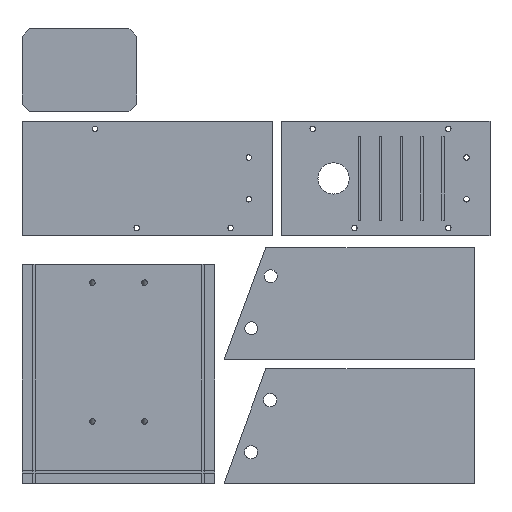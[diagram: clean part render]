
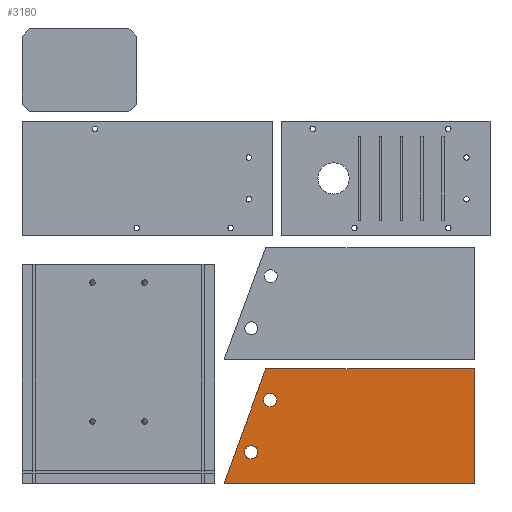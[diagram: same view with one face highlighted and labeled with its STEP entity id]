
A CAD part, top view. The second image highlights one B-rep face of the part: STEP entity #3180.
In plain terms, the highlighted planar face has unit normal (0, 0, 1).
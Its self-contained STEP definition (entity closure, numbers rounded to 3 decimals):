
#2707 = VERTEX_POINT('',#2708);
#2708 = CARTESIAN_POINT('',(198.31,0.,6.858));
#2715 = PLANE('',#2716);
#2716 = AXIS2_PLACEMENT_3D('',#2717,#2718,#2719);
#2717 = CARTESIAN_POINT('',(198.31,0.,0.));
#2718 = DIRECTION('',(-1.,0.,0.));
#2719 = DIRECTION('',(0.,1.,0.));
#2727 = PLANE('',#2728);
#2728 = AXIS2_PLACEMENT_3D('',#2729,#2730,#2731);
#2729 = CARTESIAN_POINT('',(88.582,0.,0.));
#2730 = DIRECTION('',(0.,1.,0.));
#2731 = DIRECTION('',(1.,0.,0.));
#2739 = EDGE_CURVE('',#2707,#2740,#2742,.T.);
#2740 = VERTEX_POINT('',#2741);
#2741 = CARTESIAN_POINT('',(198.31,50.292,6.858));
#2742 = SURFACE_CURVE('',#2743,(#2747,#2754),.PCURVE_S1.);
#2743 = LINE('',#2744,#2745);
#2744 = CARTESIAN_POINT('',(198.31,0.,6.858));
#2745 = VECTOR('',#2746,1.);
#2746 = DIRECTION('',(0.,1.,0.));
#2747 = PCURVE('',#2715,#2748);
#2748 = DEFINITIONAL_REPRESENTATION('',(#2749),#2753);
#2749 = LINE('',#2750,#2751);
#2750 = CARTESIAN_POINT('',(0.,-6.858));
#2751 = VECTOR('',#2752,1.);
#2752 = DIRECTION('',(1.,0.));
#2753 = ( GEOMETRIC_REPRESENTATION_CONTEXT(2) 
PARAMETRIC_REPRESENTATION_CONTEXT() REPRESENTATION_CONTEXT('2D SPACE',''
  ) );
#2754 = PCURVE('',#2755,#2760);
#2755 = PLANE('',#2756);
#2756 = AXIS2_PLACEMENT_3D('',#2757,#2758,#2759);
#2757 = CARTESIAN_POINT('',(147.213,23.638,6.858));
#2758 = DIRECTION('',(0.,0.,1.));
#2759 = DIRECTION('',(0.,1.,0.));
#2760 = DEFINITIONAL_REPRESENTATION('',(#2761),#2765);
#2761 = LINE('',#2762,#2763);
#2762 = CARTESIAN_POINT('',(-23.638,-51.097));
#2763 = VECTOR('',#2764,1.);
#2764 = DIRECTION('',(1.,0.));
#2765 = ( GEOMETRIC_REPRESENTATION_CONTEXT(2) 
PARAMETRIC_REPRESENTATION_CONTEXT() REPRESENTATION_CONTEXT('2D SPACE',''
  ) );
#2783 = PLANE('',#2784);
#2784 = AXIS2_PLACEMENT_3D('',#2785,#2786,#2787);
#2785 = CARTESIAN_POINT('',(198.31,50.292,0.));
#2786 = DIRECTION('',(0.,-1.,0.));
#2787 = DIRECTION('',(-1.,0.,0.));
#2827 = VERTEX_POINT('',#2828);
#2828 = CARTESIAN_POINT('',(88.582,0.,6.858));
#2842 = PLANE('',#2843);
#2843 = AXIS2_PLACEMENT_3D('',#2844,#2845,#2846);
#2844 = CARTESIAN_POINT('',(106.87,50.292,0.));
#2845 = DIRECTION('',(0.94,-0.342,0.));
#2846 = DIRECTION('',(-0.342,-0.94,0.));
#2854 = EDGE_CURVE('',#2827,#2707,#2855,.T.);
#2855 = SURFACE_CURVE('',#2856,(#2860,#2867),.PCURVE_S1.);
#2856 = LINE('',#2857,#2858);
#2857 = CARTESIAN_POINT('',(88.582,0.,6.858));
#2858 = VECTOR('',#2859,1.);
#2859 = DIRECTION('',(1.,0.,0.));
#2860 = PCURVE('',#2727,#2861);
#2861 = DEFINITIONAL_REPRESENTATION('',(#2862),#2866);
#2862 = LINE('',#2863,#2864);
#2863 = CARTESIAN_POINT('',(0.,-6.858));
#2864 = VECTOR('',#2865,1.);
#2865 = DIRECTION('',(1.,0.));
#2866 = ( GEOMETRIC_REPRESENTATION_CONTEXT(2) 
PARAMETRIC_REPRESENTATION_CONTEXT() REPRESENTATION_CONTEXT('2D SPACE',''
  ) );
#2867 = PCURVE('',#2755,#2868);
#2868 = DEFINITIONAL_REPRESENTATION('',(#2869),#2873);
#2869 = LINE('',#2870,#2871);
#2870 = CARTESIAN_POINT('',(-23.638,58.631));
#2871 = VECTOR('',#2872,1.);
#2872 = DIRECTION('',(0.,-1.));
#2873 = ( GEOMETRIC_REPRESENTATION_CONTEXT(2) 
PARAMETRIC_REPRESENTATION_CONTEXT() REPRESENTATION_CONTEXT('2D SPACE',''
  ) );
#2963 = EDGE_CURVE('',#2740,#2964,#2966,.T.);
#2964 = VERTEX_POINT('',#2965);
#2965 = CARTESIAN_POINT('',(106.87,50.292,6.858));
#2966 = SURFACE_CURVE('',#2967,(#2971,#2978),.PCURVE_S1.);
#2967 = LINE('',#2968,#2969);
#2968 = CARTESIAN_POINT('',(198.31,50.292,6.858));
#2969 = VECTOR('',#2970,1.);
#2970 = DIRECTION('',(-1.,0.,0.));
#2971 = PCURVE('',#2783,#2972);
#2972 = DEFINITIONAL_REPRESENTATION('',(#2973),#2977);
#2973 = LINE('',#2974,#2975);
#2974 = CARTESIAN_POINT('',(0.,-6.858));
#2975 = VECTOR('',#2976,1.);
#2976 = DIRECTION('',(1.,0.));
#2977 = ( GEOMETRIC_REPRESENTATION_CONTEXT(2) 
PARAMETRIC_REPRESENTATION_CONTEXT() REPRESENTATION_CONTEXT('2D SPACE',''
  ) );
#2978 = PCURVE('',#2755,#2979);
#2979 = DEFINITIONAL_REPRESENTATION('',(#2980),#2984);
#2980 = LINE('',#2981,#2982);
#2981 = CARTESIAN_POINT('',(26.654,-51.097));
#2982 = VECTOR('',#2983,1.);
#2983 = DIRECTION('',(0.,1.));
#2984 = ( GEOMETRIC_REPRESENTATION_CONTEXT(2) 
PARAMETRIC_REPRESENTATION_CONTEXT() REPRESENTATION_CONTEXT('2D SPACE',''
  ) );
#3138 = CYLINDRICAL_SURFACE('',#3139,2.858);
#3139 = AXIS2_PLACEMENT_3D('',#3140,#3141,#3142);
#3140 = CARTESIAN_POINT('',(108.74,36.576,-1.));
#3141 = DIRECTION('',(0.,0.,1.));
#3142 = DIRECTION('',(0.,1.,0.));
#3169 = CYLINDRICAL_SURFACE('',#3170,2.858);
#3170 = AXIS2_PLACEMENT_3D('',#3171,#3172,#3173);
#3171 = CARTESIAN_POINT('',(100.428,13.716,-1.));
#3172 = DIRECTION('',(0.,0.,1.));
#3173 = DIRECTION('',(0.,1.,0.));
#3180 = ADVANCED_FACE('',(#3181,#3207,#3233),#2755,.T.);
#3181 = FACE_BOUND('',#3182,.T.);
#3182 = EDGE_LOOP('',(#3183,#3184,#3185,#3206));
#3183 = ORIENTED_EDGE('',*,*,#2739,.T.);
#3184 = ORIENTED_EDGE('',*,*,#2963,.T.);
#3185 = ORIENTED_EDGE('',*,*,#3186,.T.);
#3186 = EDGE_CURVE('',#2964,#2827,#3187,.T.);
#3187 = SURFACE_CURVE('',#3188,(#3192,#3199),.PCURVE_S1.);
#3188 = LINE('',#3189,#3190);
#3189 = CARTESIAN_POINT('',(106.87,50.292,6.858));
#3190 = VECTOR('',#3191,1.);
#3191 = DIRECTION('',(-0.342,-0.94,0.));
#3192 = PCURVE('',#2755,#3193);
#3193 = DEFINITIONAL_REPRESENTATION('',(#3194),#3198);
#3194 = LINE('',#3195,#3196);
#3195 = CARTESIAN_POINT('',(26.654,40.343));
#3196 = VECTOR('',#3197,1.);
#3197 = DIRECTION('',(-0.94,0.342));
#3198 = ( GEOMETRIC_REPRESENTATION_CONTEXT(2) 
PARAMETRIC_REPRESENTATION_CONTEXT() REPRESENTATION_CONTEXT('2D SPACE',''
  ) );
#3199 = PCURVE('',#2842,#3200);
#3200 = DEFINITIONAL_REPRESENTATION('',(#3201),#3205);
#3201 = LINE('',#3202,#3203);
#3202 = CARTESIAN_POINT('',(0.,-6.858));
#3203 = VECTOR('',#3204,1.);
#3204 = DIRECTION('',(1.,0.));
#3205 = ( GEOMETRIC_REPRESENTATION_CONTEXT(2) 
PARAMETRIC_REPRESENTATION_CONTEXT() REPRESENTATION_CONTEXT('2D SPACE',''
  ) );
#3206 = ORIENTED_EDGE('',*,*,#2854,.T.);
#3207 = FACE_BOUND('',#3208,.T.);
#3208 = EDGE_LOOP('',(#3209));
#3209 = ORIENTED_EDGE('',*,*,#3210,.F.);
#3210 = EDGE_CURVE('',#3211,#3211,#3213,.T.);
#3211 = VERTEX_POINT('',#3212);
#3212 = CARTESIAN_POINT('',(108.74,39.434,6.858));
#3213 = SURFACE_CURVE('',#3214,(#3219,#3226),.PCURVE_S1.);
#3214 = CIRCLE('',#3215,2.858);
#3215 = AXIS2_PLACEMENT_3D('',#3216,#3217,#3218);
#3216 = CARTESIAN_POINT('',(108.74,36.576,6.858));
#3217 = DIRECTION('',(0.,-0.,1.));
#3218 = DIRECTION('',(0.,1.,0.));
#3219 = PCURVE('',#2755,#3220);
#3220 = DEFINITIONAL_REPRESENTATION('',(#3221),#3225);
#3221 = CIRCLE('',#3222,2.858);
#3222 = AXIS2_PLACEMENT_2D('',#3223,#3224);
#3223 = CARTESIAN_POINT('',(12.938,38.472));
#3224 = DIRECTION('',(1.,0.));
#3225 = ( GEOMETRIC_REPRESENTATION_CONTEXT(2) 
PARAMETRIC_REPRESENTATION_CONTEXT() REPRESENTATION_CONTEXT('2D SPACE',''
  ) );
#3226 = PCURVE('',#3138,#3227);
#3227 = DEFINITIONAL_REPRESENTATION('',(#3228),#3232);
#3228 = LINE('',#3229,#3230);
#3229 = CARTESIAN_POINT('',(0.,7.858));
#3230 = VECTOR('',#3231,1.);
#3231 = DIRECTION('',(1.,0.));
#3232 = ( GEOMETRIC_REPRESENTATION_CONTEXT(2) 
PARAMETRIC_REPRESENTATION_CONTEXT() REPRESENTATION_CONTEXT('2D SPACE',''
  ) );
#3233 = FACE_BOUND('',#3234,.T.);
#3234 = EDGE_LOOP('',(#3235));
#3235 = ORIENTED_EDGE('',*,*,#3236,.F.);
#3236 = EDGE_CURVE('',#3237,#3237,#3239,.T.);
#3237 = VERTEX_POINT('',#3238);
#3238 = CARTESIAN_POINT('',(100.428,16.574,6.858));
#3239 = SURFACE_CURVE('',#3240,(#3245,#3252),.PCURVE_S1.);
#3240 = CIRCLE('',#3241,2.858);
#3241 = AXIS2_PLACEMENT_3D('',#3242,#3243,#3244);
#3242 = CARTESIAN_POINT('',(100.428,13.716,6.858));
#3243 = DIRECTION('',(0.,-0.,1.));
#3244 = DIRECTION('',(0.,1.,0.));
#3245 = PCURVE('',#2755,#3246);
#3246 = DEFINITIONAL_REPRESENTATION('',(#3247),#3251);
#3247 = CIRCLE('',#3248,2.858);
#3248 = AXIS2_PLACEMENT_2D('',#3249,#3250);
#3249 = CARTESIAN_POINT('',(-9.922,46.785));
#3250 = DIRECTION('',(1.,0.));
#3251 = ( GEOMETRIC_REPRESENTATION_CONTEXT(2) 
PARAMETRIC_REPRESENTATION_CONTEXT() REPRESENTATION_CONTEXT('2D SPACE',''
  ) );
#3252 = PCURVE('',#3169,#3253);
#3253 = DEFINITIONAL_REPRESENTATION('',(#3254),#3258);
#3254 = LINE('',#3255,#3256);
#3255 = CARTESIAN_POINT('',(0.,7.858));
#3256 = VECTOR('',#3257,1.);
#3257 = DIRECTION('',(1.,0.));
#3258 = ( GEOMETRIC_REPRESENTATION_CONTEXT(2) 
PARAMETRIC_REPRESENTATION_CONTEXT() REPRESENTATION_CONTEXT('2D SPACE',''
  ) );
